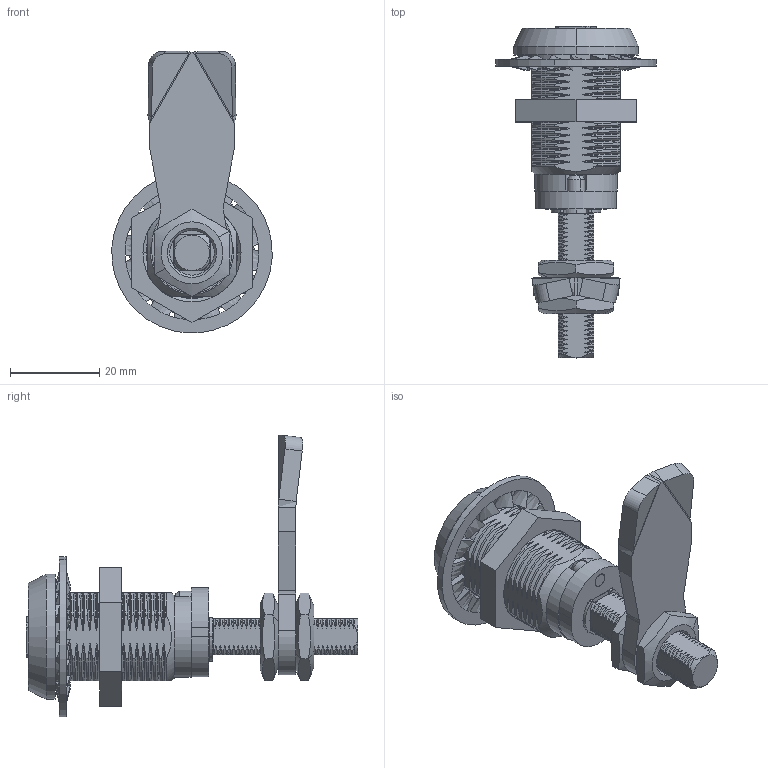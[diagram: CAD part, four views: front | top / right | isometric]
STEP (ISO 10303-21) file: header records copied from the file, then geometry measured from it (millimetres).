
FILE_DESCRIPTION (( 'STEP AP214' ), '1' );
FILE_NAME ('2.M22SC.001.STEP', '2016-08-04T10:14:11', ( 'Krzysiek' ), ( '' ), 'SwSTEP 2.0', 'SolidWorks 2015', '' );
FILE_SCHEMA (( 'AUTOMOTIVE_DESIGN' ));
Length unit declared in the file: millimetre
Products named in the file (18): 2.NKR_M22 - C; 2.M22SD30.10_A; 2.M22SD30.09_A; 2.M22SD30.08_A; 2.M22SD30.06_A; 2.M22SD30.05_A-MO58; 2.M22SD30.04_B; 2.M22SD30.03_B wyci﹖y gwint; 2.M22SD30.02P_P; 2.M22SD30.01P_Z漁紼NIE; 2.M22SC.001; 1C.J-1XX.GH.L_#4, 1.00.18.45; DIN 6799_5; 2.M22SD30.11_A; 2.M22SD30.07_G; 2.M22SD30.07.01; 2.M22SD30.07_I; Podk³adka M22 DIN 6798 J_DIN 6798 J -A2
Assembly tree (18 placements, depth 3):
  2.M22SC.001
    2.M22SD30.01P_Z漁紼NIE
    2.M22SD30.02P_P
    2.M22SD30.03_B wyci﹖y gwint
    2.M22SD30.04_B
    2.M22SD30.05_A-MO58
    2.M22SD30.06_A
    2.M22SD30.08_A
    2.M22SD30.09_A
    2.M22SD30.10_A
    2.NKR_M22 - C
    Podk³adka M22 DIN 6798 J_DIN 6798 J -A2
    2.M22SD30.07_G
      2.M22SD30.07_I
      2.M22SD30.07.01
    2.M22SD30.11_A  x2
    DIN 6799_5
    1C.J-1XX.GH.L_#4, 1.00.18.45
Bounding box: 35.91 x 74.4 x 63.16 mm (x, y, z)
Volume: 20688.5 mm3; surface area: 20372.3 mm2
Topology: 17 solids, 17 shells, 1158 faces, 3338 edges, 2186 vertices
Faces by surface type: bspline 496, cylinder 359, plane 229, cone 52, torus 22
Entity records: 409591 total; most frequent: CARTESIAN_POINT 384426, ORIENTED_EDGE 6592, EDGE_CURVE 3296, DIRECTION 3292, VERTEX_POINT 2162, EDGE_LOOP 1178, FACE_OUTER_BOUND 1140, ADVANCED_FACE 1140
